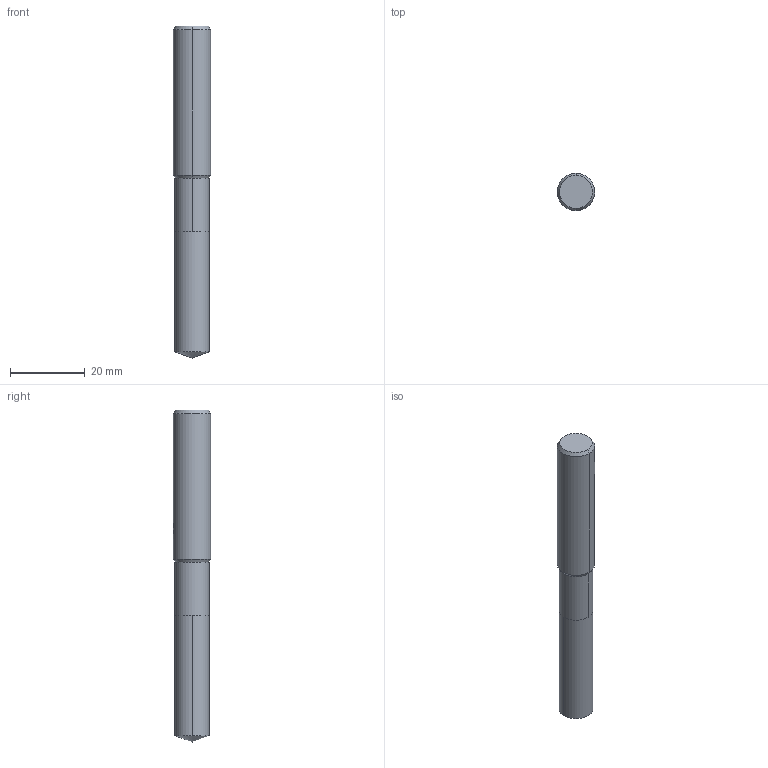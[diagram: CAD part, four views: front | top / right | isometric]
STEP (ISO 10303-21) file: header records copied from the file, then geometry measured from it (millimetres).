
FILE_DESCRIPTION(('no description'),'unknown implementation level');
FILE_NAME('solidt7atmLmShNw_O_8TlMWG5J1IYLs_1.STP',' ',('CIMSOURCE GmbH'),('CADClick - KiM GmbH - www.kimweb.de'),'unknown preprocess','ACIS','unknown authorization');
FILE_SCHEMA(('automotive_design'));
Length unit declared in the file: millimetre
Products named in the file (2): NOCUT; CUT
Bounding box: 10 x 10 x 89 mm (x, y, z)
Volume: 6272.4 mm3; surface area: 2885.5 mm2
Topology: 2 solids, 2 shells, 28 faces, 67 edges, 41 vertices
Faces by surface type: cylinder 14, plane 8, cone 6
Entity records: 1833 total; most frequent: CARTESIAN_POINT 390, DIRECTION 139, STYLED_ITEM 136, PRESENTATION_STYLE_ASSIGNMENT 136, COLOUR_RGB 136, ORIENTED_EDGE 130, EDGE_CURVE 65, CURVE_STYLE 65
